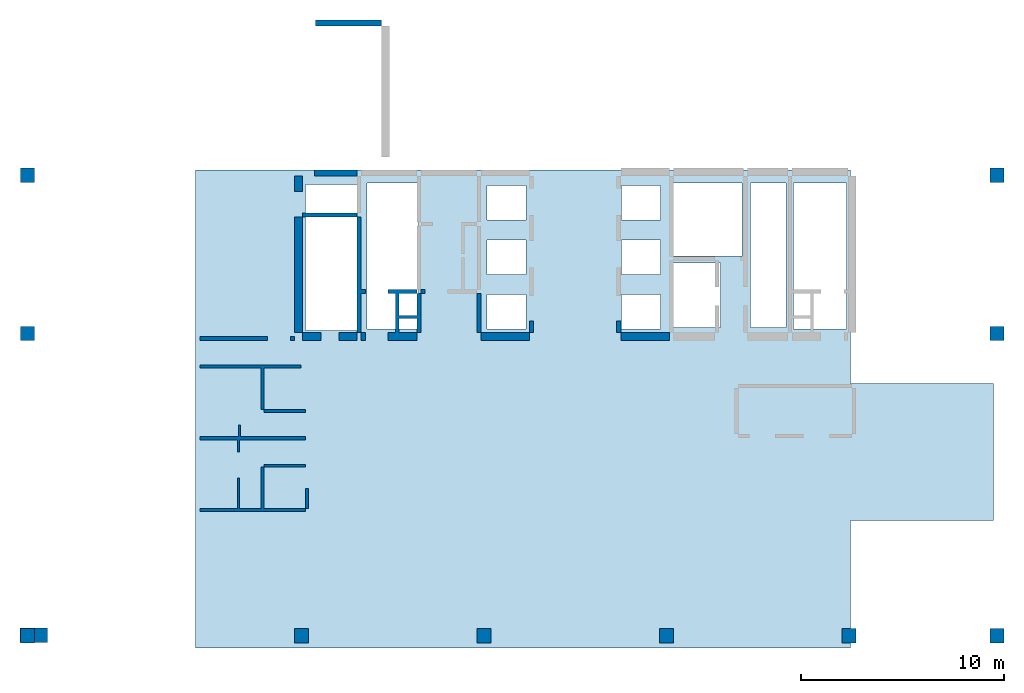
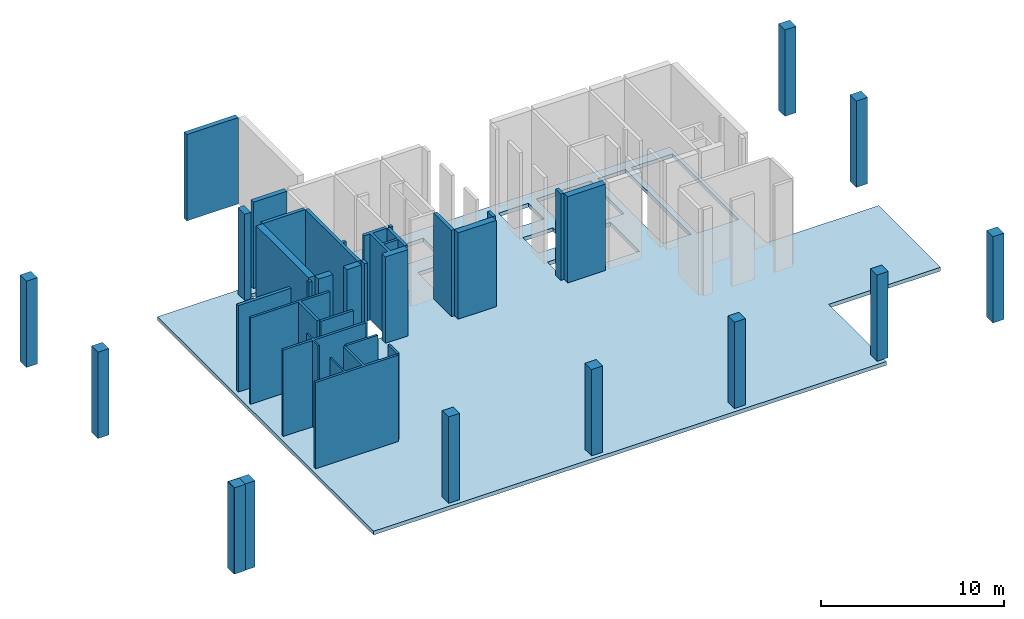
# One storey, part 1 of 2: 24 walls, 11 columns, 1 slab.
"""IFC4 building model written with IfcOpenShell, lengths in millimetres."""

from ifc_helpers import new_model, si_unit, origin, place, context, project, spatial, triangles, element, save


model = new_model("IFC4")

# Units and contexts
model_context = context("Model", 3, precision=0.001, world=origin())
ifc_project = project(units=[si_unit("LENGTHUNIT", "METRE", prefix="MILLI"), si_unit("AREAUNIT", "SQUARE_METRE"), si_unit("VOLUMEUNIT", "CUBIC_METRE")], contexts=[model_context])

# Site, building, storey
site_placement = place(None, origin())
site = spatial("IfcSite", under=ifc_project, at=site_placement, Name="Site", CompositionType="ELEMENT")
building_placement = place(site_placement, origin())
building = spatial("IfcBuilding", under=site, at=building_placement, Name="INNOCEAN", CompositionType="ELEMENT")
storey_placement = place(building_placement, origin())
storey = spatial("IfcBuildingStorey", under=building, at=storey_placement, Name="F01", CompositionType="ELEMENT", Elevation=0.0)

# Columns
column_1_placement = place(storey_placement, origin())
element("IfcColumn", 1, at=column_1_placement, inside=storey, Name="F01_Columns_F01_001", context=model_context, shape_type="Tessellation", body=[
    triangles([(40114.8, 2023.7, 0.0), (40114.8, 2023.7, 5750.0), (40114.8, 2722.3, 0.0), (40114.8, 2722.3, 5750.0), (40813.0, 2023.7, 5750.0), (40813.0, 2023.7, 0.0), (40813.0, 2722.3, 0.0), (40813.0, 2722.3, 5750.0)], [[1, 2, 3], [3, 2, 4], [5, 6, 7], [5, 7, 8], [6, 5, 1], [1, 5, 2], [8, 7, 3], [8, 3, 4], [3, 7, 1], [1, 7, 6], [8, 4, 2], [8, 2, 5]], closed=True),
])
column_2_placement = place(storey_placement, origin())
element("IfcColumn", 2, at=column_2_placement, inside=storey, Name="F01_Columns_F01_002", context=model_context, shape_type="Tessellation", body=[
    triangles([(13129.0, 2023.7, 0.0), (13129.0, 2023.7, 5750.0), (13129.0, 2722.3, 0.0), (13129.0, 2722.3, 5750.0), (13827.2, 2023.7, 5750.0), (13827.2, 2023.7, 0.0), (13827.2, 2722.3, 0.0), (13827.2, 2722.3, 5750.0)], [[1, 2, 3], [3, 2, 4], [5, 6, 7], [5, 7, 8], [6, 5, 1], [1, 5, 2], [8, 7, 3], [8, 3, 4], [3, 7, 1], [1, 7, 6], [8, 4, 2], [8, 2, 5]], closed=True),
])
column_3_placement = place(storey_placement, origin())
element("IfcColumn", 3, at=column_3_placement, inside=storey, Name="F01_Columns_F01_003", context=model_context, shape_type="Tessellation", body=[
    triangles([(-363.9, 16922.4, 0.0), (-363.9, 16922.4, 5750.0), (-363.9, 17620.9, 0.0), (-363.9, 17620.9, 5750.0), (334.3, 16922.4, 5750.0), (334.3, 16922.4, 0.0), (334.3, 17620.9, 0.0), (334.3, 17620.9, 5750.0)], [[1, 2, 3], [3, 2, 4], [5, 6, 7], [5, 7, 8], [6, 5, 1], [1, 5, 2], [8, 7, 3], [8, 3, 4], [3, 7, 1], [1, 7, 6], [8, 4, 2], [8, 2, 5]], closed=True),
])
column_4_placement = place(storey_placement, origin())
element("IfcColumn", 4, at=column_4_placement, inside=storey, Name="F01_Columns_F01_004", context=model_context, shape_type="Tessellation", body=[
    triangles([(-363.9, 2023.7, 0.0), (-363.9, 2023.7, 5750.0), (-363.9, 2722.3, 0.0), (-363.9, 2722.3, 5750.0), (334.3, 2023.7, 5750.0), (334.3, 2023.7, 0.0), (334.3, 2722.3, 0.0), (334.3, 2722.3, 5750.0)], [[1, 2, 3], [3, 2, 4], [5, 6, 7], [5, 7, 8], [6, 5, 1], [1, 5, 2], [8, 7, 3], [8, 3, 4], [3, 7, 1], [1, 7, 6], [8, 4, 2], [8, 2, 5]], closed=True),
])
column_5_placement = place(storey_placement, origin())
element("IfcColumn", 5, at=column_5_placement, inside=storey, Name="F01_Columns_F01_005", context=model_context, shape_type="Tessellation", body=[
    triangles([(-363.9, 24721.0, 0.0), (-363.9, 24721.0, 5750.0), (-363.9, 25419.5, 0.0), (-363.9, 25419.5, 5750.0), (334.3, 24721.0, 5750.0), (334.3, 24721.0, 0.0), (334.3, 25419.5, 0.0), (334.3, 25419.5, 5750.0)], [[1, 2, 3], [3, 2, 4], [5, 6, 7], [5, 7, 8], [6, 5, 1], [1, 5, 2], [8, 7, 3], [8, 3, 4], [3, 7, 1], [1, 7, 6], [8, 4, 2], [8, 2, 5]], closed=True),
])
column_6_placement = place(storey_placement, origin())
element("IfcColumn", 6, at=column_6_placement, inside=storey, Name="F01_Columns_F01_006", context=model_context, shape_type="Tessellation", body=[
    triangles([(31128.0, 2023.7, 0.0), (31128.0, 2023.7, 5750.0), (31128.0, 2722.3, 0.0), (31128.0, 2722.3, 5750.0), (31826.2, 2023.7, 5750.0), (31826.2, 2023.7, 0.0), (31826.2, 2722.3, 0.0), (31826.2, 2722.3, 5750.0)], [[1, 2, 3], [3, 2, 4], [5, 6, 7], [5, 7, 8], [6, 5, 1], [1, 5, 2], [8, 7, 3], [8, 3, 4], [3, 7, 1], [1, 7, 6], [8, 4, 2], [8, 2, 5]], closed=True),
])
column_7_placement = place(storey_placement, origin())
element("IfcColumn", 7, at=column_7_placement, inside=storey, Name="F01_Columns_F01_007", context=model_context, shape_type="Tessellation", body=[
    triangles([(22128.5, 2023.7, 0.0), (22128.5, 2023.7, 5750.0), (22128.5, 2722.3, 0.0), (22128.5, 2722.3, 5750.0), (22826.7, 2023.7, 5750.0), (22826.7, 2023.7, 0.0), (22826.7, 2722.3, 0.0), (22826.7, 2722.3, 5750.0)], [[1, 2, 3], [3, 2, 4], [5, 6, 7], [5, 7, 8], [6, 5, 1], [1, 5, 2], [8, 7, 3], [8, 3, 4], [3, 7, 1], [1, 7, 6], [8, 4, 2], [8, 2, 5]], closed=True),
])
column_8_placement = place(storey_placement, origin())
element("IfcColumn", 8, at=column_8_placement, inside=storey, Name="F01_Columns_F01_008", context=model_context, shape_type="Tessellation", body=[
    triangles([(47413.4, 24721.0, 0.0), (47413.4, 24721.0, 5750.0), (47413.4, 25419.5, 0.0), (47413.4, 25419.5, 5750.0), (48111.6, 24721.0, 5750.0), (48111.6, 24721.0, 0.0), (48111.6, 25419.5, 0.0), (48111.6, 25419.5, 5750.0)], [[1, 2, 3], [3, 2, 4], [5, 6, 7], [5, 7, 8], [6, 5, 1], [1, 5, 2], [8, 7, 3], [8, 3, 4], [1, 3, 6], [3, 7, 6], [4, 2, 5], [8, 4, 5]], closed=True),
])
column_9_placement = place(storey_placement, origin())
element("IfcColumn", 9, at=column_9_placement, inside=storey, Name="F01_Columns_F01_009", context=model_context, shape_type="Tessellation", body=[
    triangles([(47413.4, 16922.4, 0.0), (47413.4, 16922.4, 5750.0), (47413.4, 17620.9, 0.0), (47413.4, 17620.9, 5750.0), (48111.6, 16922.4, 5750.0), (48111.6, 16922.4, 0.0), (48111.6, 17620.9, 0.0), (48111.6, 17620.9, 5750.0)], [[1, 2, 3], [3, 2, 4], [5, 6, 7], [5, 7, 8], [6, 5, 1], [1, 5, 2], [8, 7, 3], [8, 3, 4], [1, 3, 6], [3, 7, 6], [4, 2, 5], [8, 4, 5]], closed=True),
])
column_10_placement = place(storey_placement, origin())
element("IfcColumn", 10, at=column_10_placement, inside=storey, Name="F01_Columns_F01_010", context=model_context, shape_type="Tessellation", body=[
    triangles([(47413.4, 2023.7, 0.0), (47413.4, 2023.7, 5750.0), (47413.4, 2722.3, 0.0), (47413.4, 2722.3, 5750.0), (48111.6, 2023.7, 5750.0), (48111.6, 2023.7, 0.0), (48111.6, 2722.3, 0.0), (48111.6, 2722.3, 5750.0)], [[1, 2, 3], [3, 2, 4], [5, 6, 7], [5, 7, 8], [6, 5, 1], [1, 5, 2], [8, 7, 3], [8, 3, 4], [3, 7, 1], [1, 7, 6], [8, 4, 2], [8, 2, 5]], closed=True),
])
column_11_placement = place(storey_placement, origin())
element("IfcColumn", 11, at=column_11_placement, inside=storey, Name="F01_Columns_F01_011", context=model_context, shape_type="Tessellation", body=[
    triangles([(-389.3, 2049.1, 0.0), (-389.3, 2049.1, 5750.0), (-389.3, 2747.7, 0.0), (-389.3, 2747.7, 5750.0), (956.2, 2049.1, 5750.0), (956.2, 2049.1, 0.0), (956.2, 2747.7, 0.0), (956.2, 2747.7, 5750.0)], [[1, 2, 3], [3, 2, 4], [5, 6, 7], [5, 7, 8], [6, 5, 1], [1, 5, 2], [8, 7, 3], [8, 3, 4], [3, 7, 1], [1, 7, 6], [8, 4, 2], [8, 2, 5]], closed=True),
])

# Slab
slab_placement = place(storey_placement, origin())
element("IfcSlab", 12, at=slab_placement, inside=storey, Name="F01_Slab_F01_001", context=model_context, shape_type="Tessellation", body=[
    triangles([(8250.59760956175, 25332.0346320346, 0.0), (40547.8087649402, 25332.0346320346, 0.0), (8250.59760956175, 25332.0346320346, -250.0), (40547.8087649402, 25332.0346320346, -250.0), (8250.59760956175, 1764.06926406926, 0.0), (8250.59760956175, 1764.06926406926, -250.0), (40547.8087649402, 14818.1818181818, -250.0), (40547.8087649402, 14818.1818181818, 0.0), (40547.8087649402, 1764.06926406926, 0.0), (40547.8087649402, 1764.06926406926, -250.0), (47599.6015936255, 14818.1818181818, 0.0), (47599.6015936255, 14818.1818181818, -250.0), (40547.8087649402, 8044.15584415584, 0.0), (40547.8087649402, 8044.15584415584, -250.0), (47599.6015936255, 8044.15584415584, 0.0), (47599.6015936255, 8044.15584415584, -250.0), (34130.6772908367, 20745.4545454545, -250.0), (31733.0677290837, 20745.4545454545, 0.0), (31733.0677290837, 20745.4545454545, -250.0), (34130.6772908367, 20745.4545454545, 0.0), (31733.0677290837, 17570.1298701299, 0.0), (31733.0677290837, 17570.1298701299, -250.0), (34130.6772908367, 17570.1298701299, 0.0), (34130.6772908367, 17570.1298701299, -250.0), (31168.9243027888, 19193.0735930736, 0.0), (29264.9402390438, 19193.0735930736, 0.0), (29264.9402390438, 19193.0735930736, -250.0), (31168.9243027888, 19193.0735930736, -250.0), (31168.9243027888, 17499.5670995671, 0.0), (31168.9243027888, 17499.5670995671, -250.0), (29264.9402390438, 17499.5670995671, 0.0), (29264.9402390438, 17499.5670995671, -250.0), (31168.9243027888, 21874.4588744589, 0.0), (29264.9402390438, 21874.4588744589, 0.0), (29264.9402390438, 21874.4588744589, -250.0), (31168.9243027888, 21874.4588744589, -250.0), (29264.9402390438, 20180.9523809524, 0.0), (29264.9402390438, 20180.9523809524, -250.0), (31168.9243027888, 20180.9523809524, 0.0), (31168.9243027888, 20180.9523809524, -250.0), (24540.2390438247, 19193.0735930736, -250.0), (22636.2549800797, 19193.0735930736, 0.0), (22636.2549800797, 19193.0735930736, -250.0), (24540.2390438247, 19193.0735930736, 0.0), (22636.2549800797, 17499.5670995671, 0.0), (22636.2549800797, 17499.5670995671, -250.0), (24540.2390438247, 17499.5670995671, 0.0), (24540.2390438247, 17499.5670995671, -250.0), (24540.2390438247, 21874.4588744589, -250.0), (22636.2549800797, 21874.4588744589, 0.0), (22636.2549800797, 21874.4588744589, -250.0), (24540.2390438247, 21874.4588744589, 0.0), (22636.2549800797, 20180.9523809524, 0.0), (22636.2549800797, 20180.9523809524, -250.0), (24540.2390438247, 20180.9523809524, 0.0), (24540.2390438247, 20180.9523809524, -250.0), (16219.1235059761, 24626.4069264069, 0.0), (13680.4780876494, 24626.4069264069, 0.0), (13680.4780876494, 24626.4069264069, -250.0), (16219.1235059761, 24626.4069264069, -250.0), (13680.4780876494, 17429.0043290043, 0.0), (13680.4780876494, 17429.0043290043, -250.0), (16219.1235059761, 17429.0043290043, 0.0), (16219.1235059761, 17429.0043290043, -250.0), (40336.2549800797, 24696.9696969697, -250.0), (37727.0916334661, 24696.9696969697, 0.0), (37727.0916334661, 24696.9696969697, -250.0), (40336.2549800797, 24696.9696969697, 0.0), (37727.0916334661, 17499.5670995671, 0.0), (37727.0916334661, 17499.5670995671, -250.0), (40336.2549800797, 17499.5670995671, 0.0), (40336.2549800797, 17499.5670995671, -250.0), (37374.5019920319, 24696.9696969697, 0.0), (35611.5537848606, 24696.9696969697, 0.0), (35611.5537848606, 24696.9696969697, -250.0), (37374.5019920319, 24696.9696969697, -250.0), (35611.5537848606, 17570.1298701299, 0.0), (35611.5537848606, 17570.1298701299, -250.0), (37374.5019920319, 17570.1298701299, 0.0), (37374.5019920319, 17570.1298701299, -250.0), (35188.4462151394, 24696.9696969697, 0.0), (31733.0677290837, 24696.9696969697, 0.0), (31733.0677290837, 24696.9696969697, -250.0), (35188.4462151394, 24696.9696969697, -250.0), (31733.0677290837, 21098.2683982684, 0.0), (31733.0677290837, 21098.2683982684, -250.0), (35188.4462151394, 21098.2683982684, 0.0), (35188.4462151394, 21098.2683982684, -250.0), (31168.9243027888, 24555.8441558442, 0.0), (29264.9402390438, 24555.8441558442, 0.0), (29264.9402390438, 24555.8441558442, -250.0), (31168.9243027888, 24555.8441558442, -250.0), (29264.9402390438, 22862.3376623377, 0.0), (29264.9402390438, 22862.3376623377, -250.0), (31168.9243027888, 22862.3376623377, 0.0), (31168.9243027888, 22862.3376623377, -250.0), (19251.3944223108, 24696.9696969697, 0.0), (16712.7490039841, 24696.9696969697, 0.0), (16712.7490039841, 24696.9696969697, -250.0), (19251.3944223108, 24696.9696969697, -250.0), (16712.7490039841, 17499.5670995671, 0.0), (16712.7490039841, 17499.5670995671, -250.0), (19251.3944223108, 17499.5670995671, 0.0), (19251.3944223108, 17499.5670995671, -250.0), (24540.2390438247, 24555.8441558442, -250.0), (22636.2549800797, 24555.8441558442, 0.0), (22636.2549800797, 24555.8441558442, -250.0), (24540.2390438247, 24555.8441558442, 0.0), (22636.2549800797, 22862.3376623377, 0.0), (22636.2549800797, 22862.3376623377, -250.0), (24540.2390438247, 22862.3376623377, 0.0), (24540.2390438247, 22862.3376623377, -250.0)], [[1, 2, 3], [3, 2, 4], [5, 3, 6], [5, 1, 3], [2, 7, 4], [2, 8, 7], [9, 5, 10], [10, 5, 6], [8, 11, 7], [7, 11, 12], [13, 9, 14], [14, 9, 10], [11, 15, 12], [12, 15, 16], [15, 13, 16], [16, 13, 14], [17, 18, 19], [20, 18, 17], [18, 21, 22], [18, 22, 19], [23, 20, 17], [23, 17, 24], [22, 23, 24], [21, 23, 22], [25, 26, 27], [25, 27, 28], [29, 25, 28], [29, 28, 30], [31, 29, 30], [31, 30, 32], [26, 31, 32], [26, 32, 27], [33, 34, 35], [33, 35, 36], [34, 37, 38], [34, 38, 35], [39, 33, 36], [39, 36, 40], [37, 39, 40], [37, 40, 38], [41, 42, 43], [44, 42, 41], [42, 45, 46], [42, 46, 43], [47, 44, 41], [47, 41, 48], [46, 47, 48], [45, 47, 46], [49, 50, 51], [52, 50, 49], [50, 53, 54], [50, 54, 51], [55, 52, 49], [55, 49, 56], [54, 55, 56], [53, 55, 54], [57, 58, 59], [57, 59, 60], [58, 61, 62], [58, 62, 59], [63, 57, 60], [63, 60, 64], [61, 63, 64], [61, 64, 62], [65, 66, 67], [68, 66, 65], [66, 69, 70], [66, 70, 67], [71, 68, 65], [71, 65, 72], [70, 71, 72], [69, 71, 70], [73, 74, 75], [73, 75, 76], [74, 77, 78], [74, 78, 75], [79, 73, 76], [79, 76, 80], [77, 79, 80], [77, 80, 78], [81, 82, 83], [81, 83, 84], [82, 85, 86], [82, 86, 83], [87, 81, 84], [87, 84, 88], [85, 87, 88], [85, 88, 86], [89, 90, 91], [89, 91, 92], [90, 93, 94], [90, 94, 91], [95, 89, 92], [95, 92, 96], [93, 95, 96], [93, 96, 94], [97, 98, 99], [97, 99, 100], [98, 101, 102], [98, 102, 99], [103, 97, 100], [103, 100, 104], [101, 103, 104], [101, 104, 102], [105, 106, 107], [108, 106, 105], [106, 109, 110], [106, 110, 107], [111, 108, 105], [111, 105, 112], [110, 111, 112], [109, 111, 110], [11, 13, 15], [11, 8, 13], [71, 69, 8], [69, 79, 8], [8, 77, 13], [79, 77, 8], [77, 23, 13], [23, 21, 13], [21, 29, 13], [87, 20, 77], [77, 20, 23], [2, 66, 68], [2, 73, 66], [21, 25, 29], [13, 31, 9], [29, 31, 13], [25, 18, 39], [2, 74, 73], [18, 85, 39], [20, 85, 18], [74, 81, 87], [85, 33, 39], [39, 37, 25], [25, 37, 26], [85, 95, 33], [95, 34, 33], [31, 47, 9], [82, 89, 95], [47, 5, 9], [95, 93, 34], [31, 44, 47], [26, 44, 31], [47, 45, 5], [82, 90, 89], [34, 55, 37], [26, 55, 44], [37, 55, 26], [55, 42, 44], [34, 52, 55], [55, 53, 42], [42, 103, 45], [45, 103, 5], [53, 103, 42], [93, 111, 34], [34, 111, 52], [53, 50, 103], [93, 108, 111], [90, 108, 93], [52, 109, 50], [111, 109, 52], [103, 63, 5], [101, 63, 103], [63, 61, 5], [106, 97, 109], [50, 97, 103], [109, 97, 50], [98, 57, 101], [101, 57, 63], [98, 58, 57], [58, 1, 61], [61, 1, 5], [2, 1, 98], [2, 98, 97], [2, 97, 106], [2, 106, 108], [2, 108, 82], [2, 82, 81], [2, 81, 74], [98, 1, 58], [82, 108, 90], [8, 2, 71], [71, 2, 68], [21, 18, 25], [77, 74, 87], [73, 79, 66], [66, 79, 69], [85, 82, 95], [87, 85, 20], [14, 12, 16], [7, 12, 14], [70, 72, 7], [80, 70, 7], [78, 7, 14], [78, 80, 7], [24, 78, 14], [22, 24, 14], [30, 22, 14], [17, 88, 78], [17, 78, 24], [67, 4, 65], [76, 4, 67], [28, 22, 30], [32, 14, 10], [32, 30, 14], [19, 28, 40], [75, 4, 76], [86, 19, 40], [86, 17, 19], [84, 75, 88], [36, 86, 40], [38, 40, 28], [38, 28, 27], [96, 86, 36], [35, 96, 36], [48, 32, 10], [92, 83, 96], [6, 48, 10], [94, 96, 35], [41, 32, 48], [41, 27, 32], [46, 48, 6], [91, 83, 92], [56, 35, 38], [56, 27, 41], [56, 38, 27], [43, 56, 41], [49, 35, 56], [54, 56, 43], [104, 43, 46], [104, 46, 6], [104, 54, 43], [112, 94, 35], [112, 35, 49], [51, 54, 104], [105, 94, 112], [105, 91, 94], [110, 49, 51], [110, 112, 49], [64, 104, 6], [64, 102, 104], [62, 64, 6], [100, 107, 110], [100, 51, 104], [100, 110, 51], [60, 99, 102], [60, 102, 64], [59, 99, 60], [3, 59, 62], [3, 62, 6], [3, 4, 99], [99, 4, 100], [100, 4, 107], [107, 4, 105], [105, 4, 83], [83, 4, 84], [84, 4, 75], [3, 99, 59], [105, 83, 91], [4, 7, 72], [4, 72, 65], [19, 22, 28], [75, 78, 88], [80, 76, 67], [80, 67, 70], [83, 86, 96], [86, 88, 17]], closed=True),
])

# Walls
wall_1_placement = place(storey_placement, origin())
element("IfcWall", 13, at=wall_1_placement, inside=storey, Name="F01_Walls_F01_001", context=model_context, shape_type="Tessellation", body=[
    triangles([(10440.0, 8641.1, 0.0), (10440.0, 10140.0, 0.0), (10440.0, 10140.0, 5750.0), (10440.0, 8641.1, 5750.0), (11491.6, 8641.1, 0.0), (11491.6, 8641.1, 5750.0), (11491.6, 10241.5, 0.0), (11491.6, 10241.5, 5750.0), (11491.6, 10686.0, 5750.0), (11491.6, 10686.0, 0.0), (11643.9, 10686.0, 0.0), (11643.9, 10686.0, 5750.0), (11643.9, 10241.5, 5750.0), (11643.9, 10241.5, 0.0), (11643.9, 8641.1, 0.0), (11643.9, 8641.1, 5750.0), (13687.5, 8641.1, 0.0), (13687.5, 8641.1, 5750.0), (13687.5, 8488.7, 0.0), (13687.5, 8488.7, 5750.0), (8483.3, 8488.7, 0.0), (8483.3, 8488.7, 5750.0), (8483.3, 8641.1, 0.0), (8483.3, 8641.1, 5750.0), (10335.0, 8641.1, 0.0), (10335.0, 8641.1, 5750.0), (10335.0, 10140.0, 0.0), (10335.0, 10140.0, 5750.0)], [[1, 2, 3], [1, 3, 4], [5, 1, 4], [5, 4, 6], [7, 5, 6], [7, 6, 8], [7, 8, 9], [10, 7, 9], [11, 10, 9], [11, 9, 12], [11, 12, 13], [14, 11, 13], [15, 14, 13], [15, 13, 16], [17, 15, 16], [17, 16, 18], [19, 17, 18], [19, 18, 20], [21, 19, 20], [21, 20, 22], [23, 21, 22], [23, 22, 24], [25, 23, 24], [25, 24, 26], [27, 25, 26], [27, 26, 28], [27, 28, 3], [2, 27, 3], [15, 17, 19], [5, 15, 19], [7, 14, 15], [7, 15, 5], [10, 11, 14], [10, 14, 7], [27, 2, 1], [27, 1, 25], [21, 1, 5], [21, 5, 19], [21, 25, 1], [23, 25, 21], [18, 16, 20], [16, 6, 20], [13, 8, 16], [16, 8, 6], [12, 9, 13], [13, 9, 8], [3, 28, 4], [4, 28, 26], [4, 22, 6], [6, 22, 20], [26, 22, 4], [26, 24, 22]], closed=True),
])
wall_2_placement = place(storey_placement, origin())
element("IfcWall", 14, at=wall_2_placement, inside=storey, Name="F01_Walls_F01_002", context=model_context, shape_type="Tessellation", body=[
    triangles([(13827.2, 9631.8, 0.0), (13827.2, 9631.8, 5750.0), (13827.2, 8641.1, 5750.0), (13827.2, 8641.1, 0.0), (13687.5, 8641.1, 5750.0), (13687.5, 8641.1, 0.0), (13687.5, 9631.8, 5750.0), (13687.5, 9631.8, 0.0)], [[1, 2, 3], [4, 1, 3], [4, 3, 5], [6, 4, 5], [6, 5, 7], [8, 6, 7], [8, 7, 2], [1, 8, 2], [8, 1, 4], [8, 4, 6], [2, 7, 3], [3, 7, 5]], closed=True),
])
wall_3_placement = place(storey_placement, origin())
element("IfcWall", 15, at=wall_3_placement, inside=storey, Name="F01_Walls_F01_003", context=model_context, shape_type="Tessellation", body=[
    triangles([(13687.5, 10825.7, 0.0), (11643.9, 10825.7, 0.0), (11643.9, 10825.7, 5750.0), (13687.5, 10825.7, 5750.0), (13687.5, 10686.0, 5750.0), (13687.5, 10686.0, 0.0), (11643.9, 10686.0, 0.0), (11643.9, 10686.0, 5750.0)], [[1, 2, 3], [1, 3, 4], [1, 4, 5], [6, 1, 5], [7, 6, 5], [7, 5, 8], [7, 8, 3], [2, 7, 3], [2, 1, 6], [2, 6, 7], [4, 3, 5], [5, 3, 8]], closed=True),
])
wall_4_placement = place(storey_placement, origin())
element("IfcWall", 16, at=wall_4_placement, inside=storey, Name="F01_Walls_F01_004", context=model_context, shape_type="Tessellation", body=[
    triangles([(10336.5, 12030.0, 0.0), (10335.0, 12030.0, 0.0), (10335.0, 12030.0, 5750.0), (10336.5, 12030.0, 5750.0), (10336.5, 12032.4, 0.0), (10336.5, 12032.4, 5750.0), (8483.3, 12032.4, 0.0), (8483.3, 12032.4, 5750.0), (8483.3, 12184.8, 0.0), (8483.3, 12184.8, 5750.0), (10387.3, 12184.8, 0.0), (10387.3, 12184.8, 5750.0), (10387.3, 12185.0, 5750.0), (10387.3, 12185.0, 0.0), (10385.0, 12185.0, 5750.0), (10385.0, 12185.0, 0.0), (10385.0, 12755.0, 0.0), (10385.0, 12755.0, 5750.0), (10387.3, 12755.0, 5750.0), (10387.3, 12755.0, 0.0), (10387.3, 12756.3, 0.0), (10387.3, 12756.3, 5750.0), (10488.8, 12756.3, 0.0), (10488.8, 12756.3, 5750.0), (10488.8, 12755.0, 0.0), (10488.8, 12755.0, 5750.0), (10490.0, 12755.0, 5750.0), (10490.0, 12755.0, 0.0), (10490.0, 12185.0, 0.0), (10490.0, 12185.0, 5750.0), (10488.8, 12185.0, 5750.0), (10488.8, 12185.0, 0.0), (10488.8, 12184.8, 5750.0), (10488.8, 12184.8, 0.0), (13687.5, 12184.8, 0.0), (13687.5, 12184.8, 5750.0), (13687.5, 12032.4, 0.0), (13687.5, 12032.4, 5750.0), (10438.1, 12032.4, 0.0), (10438.1, 12032.4, 5750.0), (10438.1, 12030.0, 0.0), (10438.1, 12030.0, 5750.0), (10440.0, 12030.0, 0.0), (10440.0, 12030.0, 5750.0), (10440.0, 11435.0, 0.0), (10440.0, 11435.0, 5750.0), (10335.0, 11435.0, 5750.0), (10335.0, 11435.0, 0.0)], [[1, 2, 3], [1, 3, 4], [5, 1, 4], [5, 4, 6], [7, 5, 6], [7, 6, 8], [9, 7, 8], [9, 8, 10], [11, 9, 10], [11, 10, 12], [11, 12, 13], [14, 11, 13], [14, 13, 15], [16, 14, 15], [17, 16, 15], [17, 15, 18], [17, 18, 19], [20, 17, 19], [21, 20, 19], [21, 19, 22], [23, 21, 22], [23, 22, 24], [25, 23, 24], [25, 24, 26], [25, 26, 27], [28, 25, 27], [29, 28, 27], [29, 27, 30], [29, 30, 31], [32, 29, 31], [32, 31, 33], [34, 32, 33], [35, 34, 33], [35, 33, 36], [37, 35, 36], [37, 36, 38], [39, 37, 38], [39, 38, 40], [41, 39, 40], [41, 40, 42], [43, 41, 42], [43, 42, 44], [45, 43, 44], [45, 44, 46], [45, 46, 47], [48, 45, 47], [2, 48, 47], [2, 47, 3], [41, 43, 45], [41, 45, 48], [1, 41, 48], [2, 1, 48], [5, 39, 41], [5, 41, 1], [11, 39, 5], [11, 34, 39], [14, 32, 34], [14, 34, 11], [25, 28, 29], [25, 29, 32], [20, 23, 25], [20, 32, 14], [20, 25, 32], [21, 23, 20], [17, 14, 16], [17, 20, 14], [5, 7, 9], [5, 9, 11], [34, 35, 37], [34, 37, 39], [44, 42, 46], [46, 42, 47], [42, 4, 47], [4, 3, 47], [40, 6, 42], [42, 6, 4], [40, 12, 6], [33, 12, 40], [31, 13, 33], [33, 13, 12], [27, 26, 30], [30, 26, 31], [24, 19, 26], [31, 19, 13], [26, 19, 31], [24, 22, 19], [13, 18, 15], [19, 18, 13], [8, 6, 10], [10, 6, 12], [36, 33, 38], [38, 33, 40]], closed=True),
])
wall_5_placement = place(storey_placement, origin())
element("IfcWall", 17, at=wall_5_placement, inside=storey, Name="F01_Walls_F01_005", context=model_context, shape_type="Tessellation", body=[
    triangles([(13687.5, 13378.7, 0.0), (13687.5, 13531.1, 0.0), (13687.5, 13531.1, 5750.0), (13687.5, 13378.7, 5750.0), (11643.9, 13378.7, 0.0), (11643.9, 13378.7, 5750.0), (11643.9, 13531.1, 0.0), (11643.9, 13531.1, 5750.0)], [[1, 2, 3], [1, 3, 4], [5, 1, 4], [5, 4, 6], [7, 5, 6], [7, 6, 8], [2, 7, 8], [2, 8, 3], [7, 2, 1], [7, 1, 5], [3, 8, 4], [4, 8, 6]], closed=True),
])
wall_6_placement = place(storey_placement, origin())
element("IfcWall", 18, at=wall_6_placement, inside=storey, Name="F01_Walls_F01_006", context=model_context, shape_type="Tessellation", body=[
    triangles([(13471.7, 15715.7, 0.0), (8483.3, 15715.7, 0.0), (8483.3, 15715.7, 5750.0), (13471.7, 15715.7, 5750.0), (13471.7, 15576.0, 5750.0), (13471.7, 15576.0, 0.0), (11643.9, 15576.0, 0.0), (11643.9, 15576.0, 5750.0), (11643.9, 13963.0, 5750.0), (11643.9, 13963.0, 0.0), (11643.9, 13531.1, 5750.0), (11643.9, 13531.1, 0.0), (11491.6, 13531.1, 0.0), (11491.6, 13531.1, 5750.0), (11491.6, 13963.0, 5750.0), (11491.6, 13963.0, 0.0), (11491.6, 15576.0, 5750.0), (11491.6, 15576.0, 0.0), (8483.3, 15576.0, 5750.0), (8483.3, 15576.0, 0.0)], [[1, 2, 3], [1, 3, 4], [1, 4, 5], [6, 1, 5], [7, 6, 5], [7, 5, 8], [7, 8, 9], [10, 7, 9], [10, 9, 11], [12, 10, 11], [13, 12, 11], [13, 11, 14], [13, 14, 15], [16, 13, 15], [16, 15, 17], [18, 16, 17], [18, 17, 19], [20, 18, 19], [20, 19, 3], [2, 20, 3], [16, 10, 12], [16, 12, 13], [7, 1, 6], [7, 10, 16], [18, 7, 16], [2, 18, 20], [2, 1, 7], [2, 7, 18], [9, 15, 11], [11, 15, 14], [4, 8, 5], [9, 8, 15], [8, 17, 15], [17, 3, 19], [4, 3, 8], [8, 3, 17]], closed=True),
])
wall_7_placement = place(storey_placement, origin())
element("IfcWall", 19, at=wall_7_placement, inside=storey, Name="F01_Walls_F01_007", context=model_context, shape_type="Tessellation", body=[
    triangles([(12940.0, 17125.0, 0.0), (12940.0, 17125.0, 5750.0), (13130.0, 17125.0, 5750.0), (13130.0, 17125.0, 0.0), (13130.0, 16920.0, 0.0), (13130.0, 16920.0, 5750.0), (12940.0, 16920.0, 5750.0), (12940.0, 16920.0, 0.0)], [[1, 2, 3], [4, 1, 3], [5, 4, 3], [5, 3, 6], [5, 6, 7], [8, 5, 7], [1, 8, 7], [1, 7, 2], [1, 4, 5], [1, 5, 8], [3, 2, 6], [6, 2, 7]], closed=True),
])
wall_8_placement = place(storey_placement, origin())
element("IfcWall", 20, at=wall_8_placement, inside=storey, Name="F01_Walls_F01_008", context=model_context, shape_type="Tessellation", body=[
    triangles([(11808.9, 16922.4, 0.0), (11808.9, 17125.6, 0.0), (11808.9, 17125.6, 5750.0), (11808.9, 16922.4, 5750.0), (8483.3, 16922.4, 0.0), (8483.3, 16922.4, 5750.0), (8483.3, 17125.6, 0.0), (8483.3, 17125.6, 5750.0)], [[1, 2, 3], [1, 3, 4], [5, 1, 4], [5, 4, 6], [7, 5, 6], [7, 6, 8], [2, 7, 8], [2, 8, 3], [7, 2, 1], [7, 1, 5], [3, 8, 4], [4, 8, 6]], closed=True),
])
wall_9_placement = place(storey_placement, origin())
element("IfcWall", 21, at=wall_9_placement, inside=storey, Name="F01_Walls_F01_009", context=model_context, shape_type="Tessellation", body=[
    triangles([(14436.4, 16922.4, 0.0), (14436.4, 17316.1, 0.0), (14436.4, 17316.1, 5750.0), (14436.4, 16922.4, 5750.0), (13535.2, 16922.4, 0.0), (13535.2, 16922.4, 5750.0), (13535.2, 17316.1, 0.0), (13535.2, 17316.1, 5750.0)], [[1, 2, 3], [1, 3, 4], [5, 1, 4], [5, 4, 6], [7, 5, 6], [7, 6, 8], [2, 7, 8], [2, 8, 3], [7, 2, 1], [7, 1, 5], [3, 8, 4], [4, 8, 6]], closed=True),
])
wall_10_placement = place(storey_placement, origin())
element("IfcWall", 22, at=wall_10_placement, inside=storey, Name="F01_Walls_F01_010", context=model_context, shape_type="Tessellation", body=[
    triangles([(16226.2, 16922.4, 0.0), (16226.2, 17316.1, 0.0), (16226.2, 17316.1, 5750.0), (16226.2, 16922.4, 5750.0), (15337.6, 16922.4, 0.0), (15337.6, 16922.4, 5750.0), (15337.6, 17316.1, 0.0), (15337.6, 17316.1, 5750.0)], [[1, 2, 3], [1, 3, 4], [5, 1, 4], [5, 4, 6], [7, 5, 6], [7, 6, 8], [2, 7, 8], [2, 8, 3], [7, 2, 1], [7, 1, 5], [3, 8, 4], [4, 8, 6]], closed=True),
])
wall_11_placement = place(storey_placement, origin())
element("IfcWall", 23, at=wall_11_placement, inside=storey, Name="F01_Walls_F01_011", context=model_context, shape_type="Tessellation", body=[
    triangles([(16226.2, 19449.9, 0.0), (16226.2, 19246.7, 0.0), (16226.2, 19246.7, 5750.0), (16226.2, 19449.9, 5750.0), (16226.2, 23019.0, 0.0), (16226.2, 23019.0, 5750.0), (16429.3, 23019.0, 0.0), (16429.3, 23019.0, 5750.0), (16429.3, 19449.9, 0.0), (16429.3, 19449.9, 5750.0), (16632.4, 19449.9, 0.0), (16632.4, 19449.9, 5750.0), (16632.4, 19246.7, 0.0), (16632.4, 19246.7, 5750.0), (16429.3, 19246.7, 0.0), (16429.3, 19246.7, 5750.0), (16429.3, 17316.1, 0.0), (16429.3, 17316.1, 5750.0), (16226.2, 17316.1, 0.0), (16226.2, 17316.1, 5750.0)], [[1, 2, 3], [1, 3, 4], [5, 1, 4], [5, 4, 6], [7, 5, 6], [7, 6, 8], [9, 7, 8], [9, 8, 10], [11, 9, 10], [11, 10, 12], [13, 11, 12], [13, 12, 14], [15, 13, 14], [15, 14, 16], [17, 15, 16], [17, 16, 18], [19, 17, 18], [19, 18, 20], [2, 19, 20], [2, 20, 3], [2, 15, 17], [2, 17, 19], [9, 11, 13], [9, 13, 15], [1, 9, 15], [1, 15, 2], [7, 9, 1], [5, 7, 1], [16, 3, 18], [18, 3, 20], [12, 10, 14], [14, 10, 16], [10, 4, 16], [16, 4, 3], [10, 8, 4], [8, 6, 4]], closed=True),
])
wall_12_placement = place(storey_placement, origin())
element("IfcWall", 24, at=wall_12_placement, inside=storey, Name="F01_Walls_F01_012", context=model_context, shape_type="Tessellation", body=[
    triangles([(13535.2, 17316.1, 0.0), (13535.2, 23019.0, 0.0), (13535.2, 23019.0, 5750.0), (13535.2, 17316.1, 5750.0), (13129.0, 17316.1, 0.0), (13129.0, 17316.1, 5750.0), (13129.0, 23019.0, 0.0), (13129.0, 23019.0, 5750.0)], [[1, 2, 3], [1, 3, 4], [5, 1, 4], [5, 4, 6], [7, 5, 6], [7, 6, 8], [2, 7, 8], [2, 8, 3], [7, 2, 1], [7, 1, 5], [3, 8, 4], [4, 8, 6]], closed=True),
])
wall_13_placement = place(storey_placement, origin())
element("IfcWall", 25, at=wall_13_placement, inside=storey, Name="F01_Walls_F01_013", context=model_context, shape_type="Tessellation", body=[
    triangles([(16226.2, 23222.2, 0.0), (13535.2, 23222.2, 0.0), (13535.2, 23222.2, 5750.0), (16226.2, 23222.2, 5750.0), (16226.2, 23019.0, 0.0), (16226.2, 23019.0, 5750.0), (13535.2, 23019.0, 0.0), (13535.2, 23019.0, 5750.0)], [[1, 2, 3], [1, 3, 4], [5, 1, 4], [5, 4, 6], [7, 5, 6], [7, 6, 8], [2, 7, 8], [2, 8, 3], [2, 1, 5], [2, 5, 7], [4, 3, 6], [6, 3, 8]], closed=True),
])
wall_14_placement = place(storey_placement, origin())
element("IfcWall", 26, at=wall_14_placement, inside=storey, Name="F01_Walls_F01_015", context=model_context, shape_type="Tessellation", body=[
    triangles([(13535.2, 24276.4, 0.0), (13535.2, 25025.8, 0.0), (13535.2, 25025.8, 5750.0), (13535.2, 24276.4, 5750.0), (13129.0, 24276.4, 0.0), (13129.0, 24276.4, 5750.0), (13129.0, 25025.8, 0.0), (13129.0, 25025.8, 5750.0)], [[1, 2, 3], [1, 3, 4], [5, 1, 4], [5, 4, 6], [7, 5, 6], [7, 6, 8], [2, 7, 8], [2, 8, 3], [2, 1, 5], [7, 2, 5], [4, 3, 6], [3, 8, 6]], closed=True),
])
wall_15_placement = place(storey_placement, origin())
element("IfcWall", 27, at=wall_15_placement, inside=storey, Name="F01_Walls_F01_016", context=model_context, shape_type="Tessellation", body=[
    triangles([(16226.2, 25025.8, 0.0), (16226.2, 25317.9, 0.0), (16226.2, 25317.9, 5750.0), (16226.2, 25025.8, 5750.0), (14119.1, 25025.8, 0.0), (14119.1, 25025.8, 5750.0), (14119.1, 25317.9, 0.0), (14119.1, 25317.9, 5750.0)], [[1, 2, 3], [1, 3, 4], [5, 1, 4], [5, 4, 6], [7, 5, 6], [7, 6, 8], [2, 7, 8], [2, 8, 3], [7, 2, 1], [7, 1, 5], [3, 8, 4], [4, 8, 6]], closed=True),
])
wall_16_placement = place(storey_placement, origin())
element("IfcWall", 28, at=wall_16_placement, inside=storey, Name="F01_Walls_F01_017", context=model_context, shape_type="Tessellation", body=[
    triangles([(17432.0, 32722.8, 0.0), (14182.6, 32722.8, 0.0), (14182.6, 32722.8, 5750.0), (17432.0, 32722.8, 5750.0), (17432.0, 32417.9, 0.0), (17432.0, 32417.9, 5750.0), (14182.6, 32417.9, 0.0), (14182.6, 32417.9, 5750.0)], [[1, 2, 3], [1, 3, 4], [5, 1, 4], [5, 4, 6], [7, 5, 6], [7, 6, 8], [2, 7, 8], [2, 8, 3], [2, 1, 5], [2, 5, 7], [4, 3, 6], [6, 3, 8]], closed=True),
])
wall_17_placement = place(storey_placement, origin())
element("IfcWall", 29, at=wall_17_placement, inside=storey, Name="F01_Walls_F01_018", context=model_context, shape_type="Tessellation", body=[
    triangles([(16632.4, 16922.4, 0.0), (16632.4, 17316.1, 0.0), (16632.4, 17316.1, 5750.0), (16632.4, 16922.4, 5750.0), (16429.3, 16922.4, 0.0), (16429.3, 16922.4, 5750.0), (16429.3, 17316.1, 0.0), (16429.3, 17316.1, 5750.0)], [[1, 2, 3], [1, 3, 4], [5, 1, 4], [5, 4, 6], [7, 5, 6], [7, 6, 8], [2, 7, 8], [2, 8, 3], [7, 2, 1], [7, 1, 5], [3, 8, 4], [4, 8, 6]], closed=True),
])
wall_18_placement = place(storey_placement, origin())
element("IfcWall", 30, at=wall_18_placement, inside=storey, Name="F01_Walls_F01_019", context=model_context, shape_type="Tessellation", body=[
    triangles([(17749.4, 17316.1, 0.0), (17749.4, 16922.4, 0.0), (17749.4, 16922.4, 5750.0), (17749.4, 17316.1, 5750.0), (19183.7, 16922.4, 0.0), (19183.7, 16922.4, 5750.0), (19183.7, 17316.1, 0.0), (19183.7, 17316.1, 5750.0), (19374.1, 17316.1, 0.0), (19374.1, 17316.1, 5750.0), (19374.1, 19246.7, 0.0), (19374.1, 19246.7, 5750.0), (19183.7, 19246.7, 0.0), (19183.7, 19246.7, 5750.0), (19183.7, 19449.9, 0.0), (19183.7, 19449.9, 5750.0), (17749.4, 19449.9, 0.0), (17749.4, 19449.9, 5750.0), (17749.4, 19246.7, 0.0), (17749.4, 19246.7, 5750.0), (18130.2, 19246.7, 0.0), (18130.2, 19246.7, 5750.0), (18130.2, 19245.0, 0.0), (18130.2, 19245.0, 5750.0), (18130.0, 19245.0, 0.0), (18130.0, 19245.0, 5750.0), (18130.0, 17316.1, 0.0), (18130.0, 17316.1, 5750.0), (18282.5, 17316.1, 0.0), (18282.5, 17316.1, 5750.0), (18282.5, 18014.7, 0.0), (18282.5, 18014.7, 5750.0), (19183.7, 18014.7, 0.0), (19183.7, 18014.7, 5750.0), (19183.7, 18167.1, 0.0), (19183.7, 18167.1, 5750.0), (18282.5, 18167.1, 0.0), (18282.5, 18167.1, 5750.0), (18282.5, 19246.7, 0.0), (18282.5, 19246.7, 5750.0)], [[1, 2, 3], [1, 3, 4], [2, 5, 6], [2, 6, 3], [5, 7, 8], [5, 8, 6], [7, 9, 10], [7, 10, 8], [9, 11, 12], [9, 12, 10], [11, 13, 14], [11, 14, 12], [13, 15, 16], [13, 16, 14], [15, 17, 18], [15, 18, 16], [17, 19, 20], [17, 20, 18], [21, 22, 20], [19, 21, 20], [21, 23, 24], [21, 24, 22], [25, 26, 24], [23, 25, 24], [25, 27, 28], [25, 28, 26], [27, 1, 4], [27, 4, 28], [29, 30, 8], [7, 29, 8], [29, 31, 32], [29, 32, 30], [33, 34, 32], [31, 33, 32], [33, 7, 8], [33, 8, 34], [13, 35, 36], [13, 36, 14], [37, 38, 36], [35, 37, 36], [37, 39, 40], [37, 40, 38], [13, 14, 40], [39, 13, 40], [33, 9, 7], [35, 9, 33], [29, 7, 5], [2, 29, 5], [27, 29, 2], [1, 27, 2], [31, 35, 33], [31, 29, 27], [11, 9, 35], [37, 35, 31], [13, 11, 35], [39, 15, 13], [23, 39, 37], [25, 23, 37], [21, 39, 23], [17, 21, 19], [17, 15, 39], [17, 39, 21], [27, 25, 37], [27, 37, 31], [10, 34, 8], [10, 36, 34], [8, 30, 6], [30, 3, 6], [30, 28, 3], [28, 4, 3], [36, 32, 34], [30, 32, 28], [10, 12, 36], [36, 38, 32], [12, 14, 36], [16, 40, 14], [40, 24, 38], [24, 26, 38], [40, 22, 24], [22, 18, 20], [16, 18, 40], [40, 18, 22], [26, 28, 38], [38, 28, 32]], closed=True),
])
wall_19_placement = place(storey_placement, origin())
element("IfcWall", 31, at=wall_19_placement, inside=storey, Name="F01_Walls_F01_020", context=model_context, shape_type="Tessellation", body=[
    triangles([(24730.6, 17316.1, 0.0), (22331.6, 17316.1, 0.0), (22331.6, 17316.1, 5750.0), (24730.6, 17316.1, 5750.0), (24730.6, 16922.4, 0.0), (24730.6, 16922.4, 5750.0), (22331.6, 16922.4, 0.0), (22331.6, 16922.4, 5750.0)], [[1, 2, 3], [1, 3, 4], [5, 1, 4], [5, 4, 6], [7, 5, 6], [7, 6, 8], [2, 7, 8], [2, 8, 3], [2, 1, 5], [2, 5, 7], [4, 3, 6], [6, 3, 8]], closed=True),
])
wall_20_placement = place(storey_placement, origin())
element("IfcWall", 32, at=wall_20_placement, inside=storey, Name="F01_Walls_F01_021", context=model_context, shape_type="Tessellation", body=[
    triangles([(22331.6, 17316.1, 0.0), (22331.6, 19246.7, 0.0), (22331.6, 19246.7, 5750.0), (22331.6, 17316.1, 5750.0), (22128.5, 17316.1, 0.0), (22128.5, 17316.1, 5750.0), (22128.5, 19246.7, 0.0), (22128.5, 19246.7, 5750.0)], [[1, 2, 3], [1, 3, 4], [5, 1, 4], [5, 4, 6], [7, 5, 6], [7, 6, 8], [2, 7, 8], [2, 8, 3], [7, 2, 1], [7, 1, 5], [3, 8, 4], [4, 8, 6]], closed=True),
])
wall_21_placement = place(storey_placement, origin())
element("IfcWall", 33, at=wall_21_placement, inside=storey, Name="F01_Walls_F01_022", context=model_context, shape_type="Tessellation", body=[
    triangles([(19374.1, 19449.9, 0.0), (19374.1, 19246.7, 0.0), (19374.1, 19246.7, 5750.0), (19374.1, 19449.9, 5750.0), (19577.2, 19449.9, 0.0), (19577.2, 19449.9, 5750.0), (19577.2, 19246.7, 0.0), (19577.2, 19246.7, 5750.0)], [[1, 2, 3], [1, 3, 4], [5, 1, 4], [5, 4, 6], [7, 5, 6], [7, 6, 8], [2, 7, 8], [2, 8, 3], [1, 5, 7], [1, 7, 2], [6, 4, 8], [8, 4, 3]], closed=True),
])
wall_22_placement = place(storey_placement, origin())
element("IfcWall", 34, at=wall_22_placement, inside=storey, Name="F01_Walls_F01_037", context=model_context, shape_type="Tessellation", body=[
    triangles([(31623.1, 17316.1, 0.0), (29224.0, 17316.1, 0.0), (29224.0, 17316.1, 5750.0), (31623.1, 17316.1, 5750.0), (31623.1, 16922.4, 0.0), (31623.1, 16922.4, 5750.0), (29224.0, 16922.4, 0.0), (29224.0, 16922.4, 5750.0)], [[1, 2, 3], [1, 3, 4], [5, 1, 4], [5, 4, 6], [7, 5, 6], [7, 6, 8], [2, 7, 8], [2, 8, 3], [2, 1, 5], [2, 5, 7], [4, 3, 6], [6, 3, 8]], closed=True),
])
wall_23_placement = place(storey_placement, origin())
element("IfcWall", 35, at=wall_23_placement, inside=storey, Name="F01_Walls_F01_039", context=model_context, shape_type="Tessellation", body=[
    triangles([(24921.0, 17316.1, 0.0), (24921.0, 17875.0, 0.0), (24921.0, 17875.0, 5750.0), (24921.0, 17316.1, 5750.0), (24730.6, 17316.1, 0.0), (24730.6, 17316.1, 5750.0), (24730.6, 17875.0, 0.0), (24730.6, 17875.0, 5750.0)], [[1, 2, 3], [1, 3, 4], [5, 1, 4], [5, 4, 6], [7, 5, 6], [7, 6, 8], [2, 7, 8], [2, 8, 3], [7, 2, 1], [7, 1, 5], [3, 8, 4], [4, 8, 6]], closed=True),
])
wall_24_placement = place(storey_placement, origin())
element("IfcWall", 36, at=wall_24_placement, inside=storey, Name="F01_Walls_F01_040", context=model_context, shape_type="Tessellation", body=[
    triangles([(29224.0, 17316.1, 0.0), (29224.0, 17875.0, 0.0), (29224.0, 17875.0, 5750.0), (29224.0, 17316.1, 5750.0), (29020.9, 17316.1, 0.0), (29020.9, 17316.1, 5750.0), (29020.9, 17875.0, 0.0), (29020.9, 17875.0, 5750.0)], [[1, 2, 3], [1, 3, 4], [5, 1, 4], [5, 4, 6], [7, 5, 6], [7, 6, 8], [2, 7, 8], [2, 8, 3], [7, 2, 1], [7, 1, 5], [3, 8, 4], [4, 8, 6]], closed=True),
])

save(model, "model.ifc")
